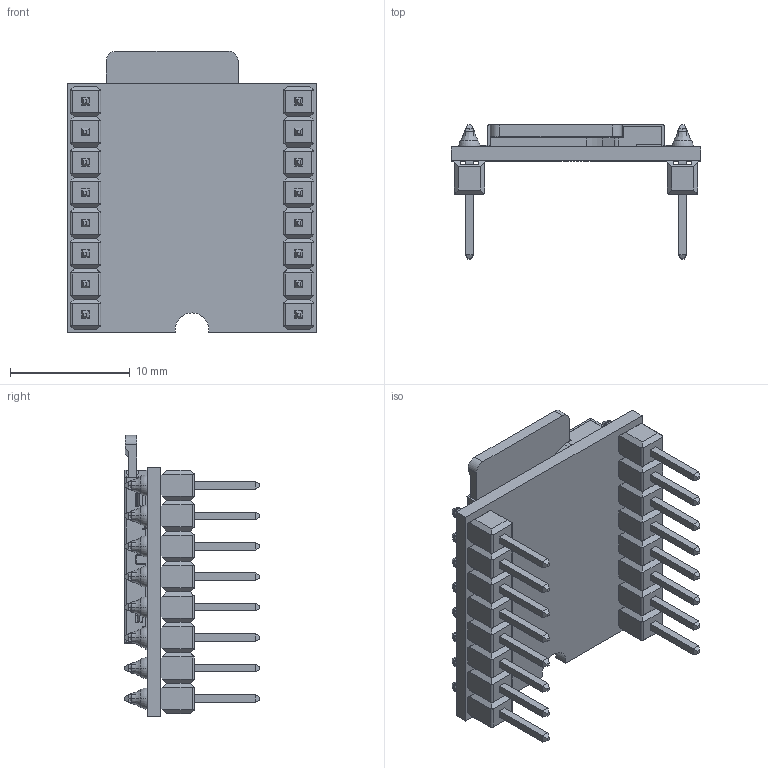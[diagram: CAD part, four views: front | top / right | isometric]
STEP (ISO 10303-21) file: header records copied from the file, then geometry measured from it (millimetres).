
FILE_DESCRIPTION (( 'STEP AP214' ), '1' );
FILE_NAME ('DFPlayer Mini Assem v1.step', '2022-11-22T20:36:38', ( '' ), ( '' ), 'SwSTEP 2.0', 'SolidWorks 2016', '' );
FILE_SCHEMA (( 'AUTOMOTIVE_DESIGN' ));
Length unit declared in the file: metre
Products named in the file (9): DFPlayer Mini Assem v1; DFPlayer Mini PCB; 11_20mm pin; Pin Header 1x12 TH Pitch 2; DFPlayer Mini Pin; Micro sd card; CD card slot; solder; SD card Assem
Assembly tree (23 placements, depth 3):
  DFPlayer Mini Assem v1
    DFPlayer Mini PCB
    SD card Assem
      CD card slot
      Micro sd card
    DFPlayer Mini Pin  x16
      11_20mm pin
      Pin Header 1x12 TH Pitch 2
      solder
Bounding box: 20.8 x 11.2 x 23.46 mm (x, y, z)
Volume: 1136.1 mm3; surface area: 3514.7 mm2
Topology: 51 solids, 51 shells, 2488 faces, 6567 edges, 4306 vertices
Faces by surface type: plane 1861, bspline 311, cylinder 278, torus 32, cone 6
Entity records: 89280 total; most frequent: CARTESIAN_POINT 26233, ORIENTED_EDGE 9714, DIRECTION 7665, EDGE_CURVE 4857, VECTOR 3893, LINE 3893, VERTEX_POINT 3226, EDGE_LOOP 1951
